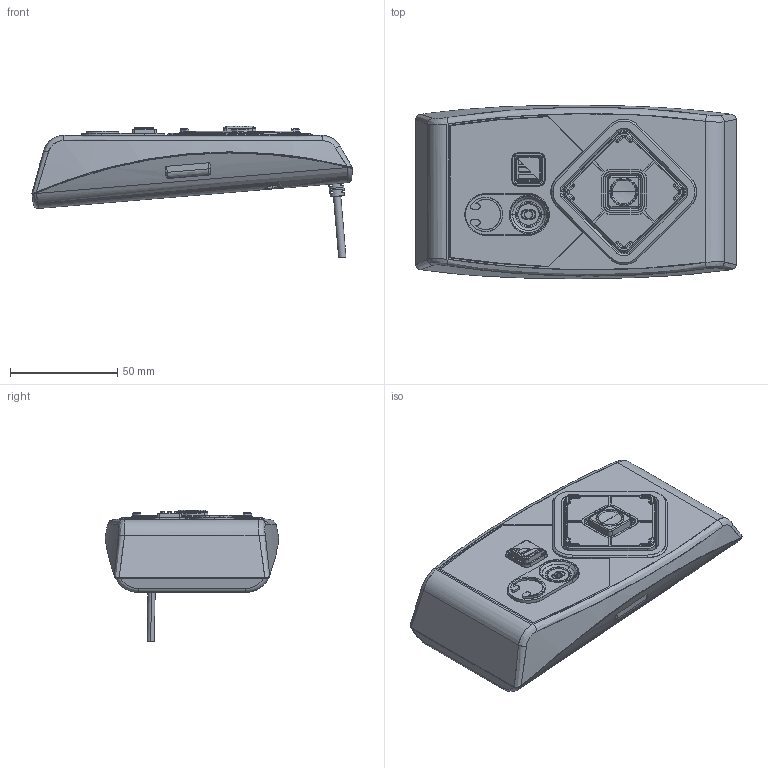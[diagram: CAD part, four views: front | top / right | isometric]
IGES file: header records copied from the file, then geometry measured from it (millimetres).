
Start section: SolidWorks IGES file using analytic representation for surfaces
Global section: file name: C:\Users\rayc\Desktop\UNAV ACCESSIBILITY MODULE.IGS; native system: SolidWorks 2017; preprocessor: SolidWorks 2017; author: rayc; date: 180130.101503; units: millimetre
Bounding box: 149.48 x 80.98 x 61.32 mm (x, y, z)
Surface area: 43038.3 mm2 (no closed solid volume)
Topology: 0 solids, 0 shells, 892 faces, 12068 edges, 12045 vertices
Faces by surface type: bspline 588, revolution 304
